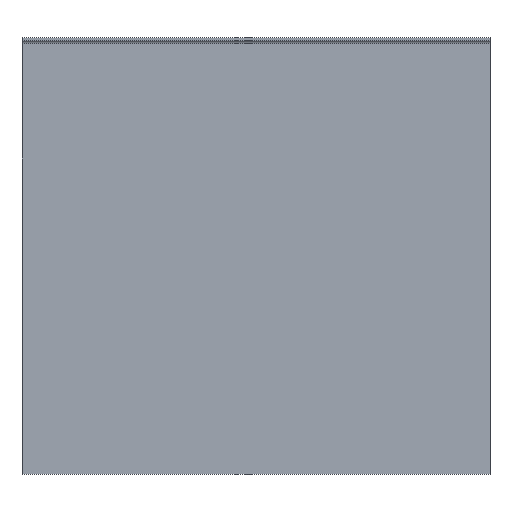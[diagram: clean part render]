
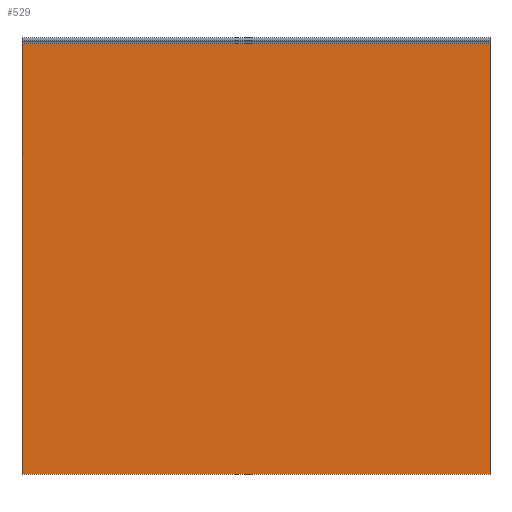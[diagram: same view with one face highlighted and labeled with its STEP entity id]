
A CAD part, top view. The second image highlights one B-rep face of the part: STEP entity #529.
In plain terms, the highlighted planar face has unit normal (0, 0, 1).
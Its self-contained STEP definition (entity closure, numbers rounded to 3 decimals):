
#44 = PLANE('',#45);
#45 = AXIS2_PLACEMENT_3D('',#46,#47,#48);
#46 = CARTESIAN_POINT('',(0.,0.,2.));
#47 = DIRECTION('',(-0.,1.,0.));
#48 = DIRECTION('',(0.,0.,-1.));
#72 = PLANE('',#73);
#73 = AXIS2_PLACEMENT_3D('',#74,#75,#76);
#74 = CARTESIAN_POINT('',(300.,144.136,1.245));
#75 = DIRECTION('',(1.,0.,0.));
#76 = DIRECTION('',(-0.,0.,1.));
#126 = PLANE('',#127);
#127 = AXIS2_PLACEMENT_3D('',#128,#129,#130);
#128 = CARTESIAN_POINT('',(0.,144.136,1.245));
#129 = DIRECTION('',(1.,0.,0.));
#130 = DIRECTION('',(-0.,0.,1.));
#411 = CYLINDRICAL_SURFACE('',#412,2.);
#412 = AXIS2_PLACEMENT_3D('',#413,#414,#415);
#413 = CARTESIAN_POINT('',(0.,276.,4.));
#414 = DIRECTION('',(-1.,0.,0.));
#415 = DIRECTION('',(0.,1.,0.));
#449 = VERTEX_POINT('',#450);
#450 = CARTESIAN_POINT('',(300.,276.,2.));
#476 = EDGE_CURVE('',#477,#449,#479,.T.);
#477 = VERTEX_POINT('',#478);
#478 = CARTESIAN_POINT('',(0.,276.,2.));
#479 = SURFACE_CURVE('',#480,(#484,#491),.PCURVE_S1.);
#480 = LINE('',#481,#482);
#481 = CARTESIAN_POINT('',(0.,276.,2.));
#482 = VECTOR('',#483,1.);
#483 = DIRECTION('',(1.,0.,0.));
#484 = PCURVE('',#411,#485);
#485 = DEFINITIONAL_REPRESENTATION('',(#486),#490);
#486 = LINE('',#487,#488);
#487 = CARTESIAN_POINT('',(1.571,0.));
#488 = VECTOR('',#489,1.);
#489 = DIRECTION('',(0.,-1.));
#490 = ( GEOMETRIC_REPRESENTATION_CONTEXT(2) 
PARAMETRIC_REPRESENTATION_CONTEXT() REPRESENTATION_CONTEXT('2D SPACE',''
  ) );
#491 = PCURVE('',#492,#497);
#492 = PLANE('',#493);
#493 = AXIS2_PLACEMENT_3D('',#494,#495,#496);
#494 = CARTESIAN_POINT('',(0.,276.,2.));
#495 = DIRECTION('',(0.,0.,-1.));
#496 = DIRECTION('',(0.,-1.,0.));
#497 = DEFINITIONAL_REPRESENTATION('',(#498),#502);
#498 = LINE('',#499,#500);
#499 = CARTESIAN_POINT('',(0.,0.));
#500 = VECTOR('',#501,1.);
#501 = DIRECTION('',(0.,-1.));
#502 = ( GEOMETRIC_REPRESENTATION_CONTEXT(2) 
PARAMETRIC_REPRESENTATION_CONTEXT() REPRESENTATION_CONTEXT('2D SPACE',''
  ) );
#529 = ADVANCED_FACE('',(#530),#492,.F.);
#530 = FACE_BOUND('',#531,.F.);
#531 = EDGE_LOOP('',(#532,#533,#556,#579));
#532 = ORIENTED_EDGE('',*,*,#476,.T.);
#533 = ORIENTED_EDGE('',*,*,#534,.T.);
#534 = EDGE_CURVE('',#449,#535,#537,.T.);
#535 = VERTEX_POINT('',#536);
#536 = CARTESIAN_POINT('',(300.,0.,2.));
#537 = SURFACE_CURVE('',#538,(#542,#549),.PCURVE_S1.);
#538 = LINE('',#539,#540);
#539 = CARTESIAN_POINT('',(300.,276.,2.));
#540 = VECTOR('',#541,1.);
#541 = DIRECTION('',(0.,-1.,0.));
#542 = PCURVE('',#492,#543);
#543 = DEFINITIONAL_REPRESENTATION('',(#544),#548);
#544 = LINE('',#545,#546);
#545 = CARTESIAN_POINT('',(0.,-300.));
#546 = VECTOR('',#547,1.);
#547 = DIRECTION('',(1.,0.));
#548 = ( GEOMETRIC_REPRESENTATION_CONTEXT(2) 
PARAMETRIC_REPRESENTATION_CONTEXT() REPRESENTATION_CONTEXT('2D SPACE',''
  ) );
#549 = PCURVE('',#72,#550);
#550 = DEFINITIONAL_REPRESENTATION('',(#551),#555);
#551 = LINE('',#552,#553);
#552 = CARTESIAN_POINT('',(0.755,-131.864));
#553 = VECTOR('',#554,1.);
#554 = DIRECTION('',(0.,1.));
#555 = ( GEOMETRIC_REPRESENTATION_CONTEXT(2) 
PARAMETRIC_REPRESENTATION_CONTEXT() REPRESENTATION_CONTEXT('2D SPACE',''
  ) );
#556 = ORIENTED_EDGE('',*,*,#557,.F.);
#557 = EDGE_CURVE('',#558,#535,#560,.T.);
#558 = VERTEX_POINT('',#559);
#559 = CARTESIAN_POINT('',(0.,0.,2.));
#560 = SURFACE_CURVE('',#561,(#565,#572),.PCURVE_S1.);
#561 = LINE('',#562,#563);
#562 = CARTESIAN_POINT('',(0.,0.,2.));
#563 = VECTOR('',#564,1.);
#564 = DIRECTION('',(1.,0.,0.));
#565 = PCURVE('',#492,#566);
#566 = DEFINITIONAL_REPRESENTATION('',(#567),#571);
#567 = LINE('',#568,#569);
#568 = CARTESIAN_POINT('',(276.,0.));
#569 = VECTOR('',#570,1.);
#570 = DIRECTION('',(0.,-1.));
#571 = ( GEOMETRIC_REPRESENTATION_CONTEXT(2) 
PARAMETRIC_REPRESENTATION_CONTEXT() REPRESENTATION_CONTEXT('2D SPACE',''
  ) );
#572 = PCURVE('',#44,#573);
#573 = DEFINITIONAL_REPRESENTATION('',(#574),#578);
#574 = LINE('',#575,#576);
#575 = CARTESIAN_POINT('',(0.,0.));
#576 = VECTOR('',#577,1.);
#577 = DIRECTION('',(0.,-1.));
#578 = ( GEOMETRIC_REPRESENTATION_CONTEXT(2) 
PARAMETRIC_REPRESENTATION_CONTEXT() REPRESENTATION_CONTEXT('2D SPACE',''
  ) );
#579 = ORIENTED_EDGE('',*,*,#580,.F.);
#580 = EDGE_CURVE('',#477,#558,#581,.T.);
#581 = SURFACE_CURVE('',#582,(#586,#593),.PCURVE_S1.);
#582 = LINE('',#583,#584);
#583 = CARTESIAN_POINT('',(0.,276.,2.));
#584 = VECTOR('',#585,1.);
#585 = DIRECTION('',(0.,-1.,0.));
#586 = PCURVE('',#492,#587);
#587 = DEFINITIONAL_REPRESENTATION('',(#588),#592);
#588 = LINE('',#589,#590);
#589 = CARTESIAN_POINT('',(0.,0.));
#590 = VECTOR('',#591,1.);
#591 = DIRECTION('',(1.,0.));
#592 = ( GEOMETRIC_REPRESENTATION_CONTEXT(2) 
PARAMETRIC_REPRESENTATION_CONTEXT() REPRESENTATION_CONTEXT('2D SPACE',''
  ) );
#593 = PCURVE('',#126,#594);
#594 = DEFINITIONAL_REPRESENTATION('',(#595),#599);
#595 = LINE('',#596,#597);
#596 = CARTESIAN_POINT('',(0.755,-131.864));
#597 = VECTOR('',#598,1.);
#598 = DIRECTION('',(0.,1.));
#599 = ( GEOMETRIC_REPRESENTATION_CONTEXT(2) 
PARAMETRIC_REPRESENTATION_CONTEXT() REPRESENTATION_CONTEXT('2D SPACE',''
  ) );
